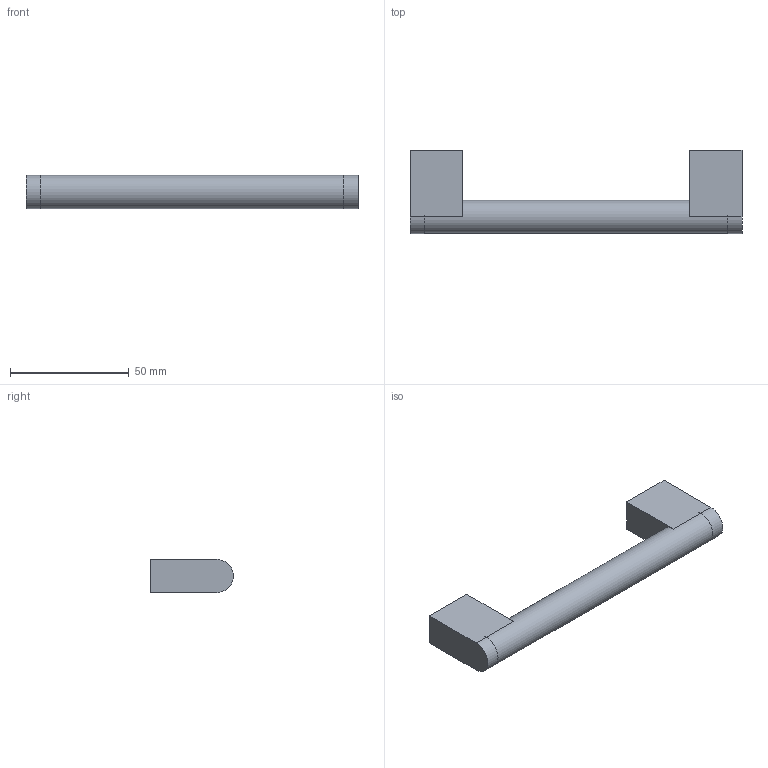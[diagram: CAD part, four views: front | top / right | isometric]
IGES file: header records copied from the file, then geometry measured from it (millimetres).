
Start section: Data from Parasolid IGES Translator 17.0.49, Copyright(c) 2006 Siemens P LM Software. All Rights Reserved.
Global section: file name: 9069890.igs; native system: By Siemens PLM Incorporated; preprocessor: XPlus GENERIC/IGES 17.0.49; author: Noname; organization: Noname; date: 20181120.154613; units: millimetre
Bounding box: 140 x 35 x 14 mm (x, y, z)
Surface area: 11544.7 mm2 (no closed solid volume)
Topology: 0 solids, 0 shells, 21 faces, 82 edges, 78 vertices
Faces by surface type: extrusion 14, revolution 7
